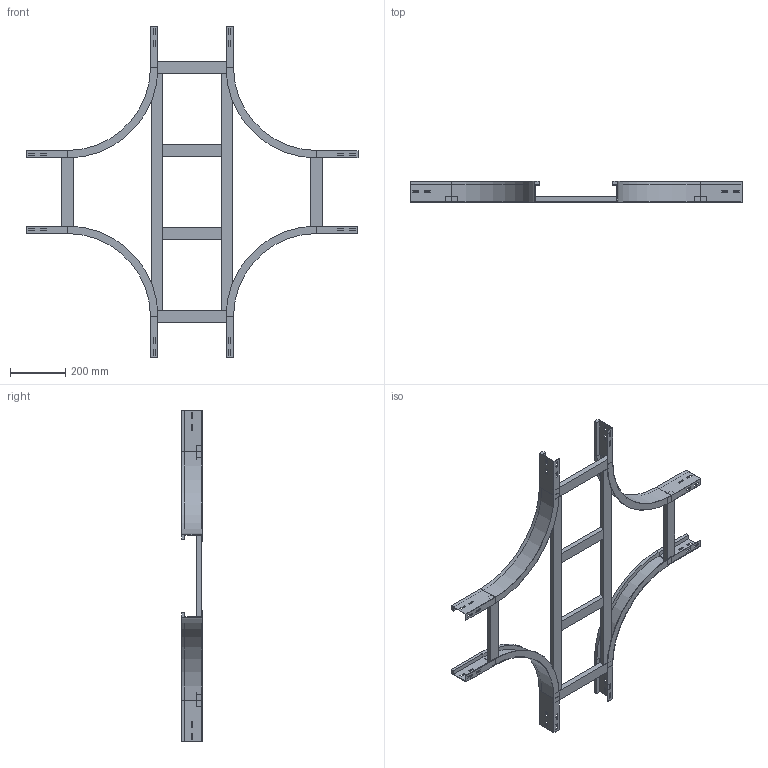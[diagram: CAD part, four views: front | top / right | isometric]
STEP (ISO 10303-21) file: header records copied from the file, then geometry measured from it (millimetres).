
FILE_DESCRIPTION (( 'STEP AP214' ), '1' );
FILE_NAME ('A2_17B3C300.step', '2025-02-21T15:58:30', ( '' ), ( '' ), 'SwSTEP 2.0', 'SolidWorks 2023', '' );
FILE_SCHEMA (( 'AUTOMOTIVE_DESIGN' ));
Length unit declared in the file: millimetre
Products named in the file (5): A2_TRAVERSINO_LONG._R300+300; TRAVERSINO_300; A2_LONGH.INTERNO 90°_H75_R300; TRAVERSINO_INTERMEDIO_R300+300; A2_17B3C300
Assembly tree (12 placements, depth 2):
  A2_17B3C300
    A2_LONGH.INTERNO 90°_H75_R300  x4
    TRAVERSINO_300  x4
    A2_TRAVERSINO_LONG._R300+300  x2
    TRAVERSINO_INTERMEDIO_R300+300  x2
Bounding box: 1200 x 75 x 1200 mm (x, y, z)
Volume: 3916738.1 mm3; surface area: 1150348.6 mm2
Topology: 12 solids, 12 shells, 280 faces, 704 edges, 448 vertices
Faces by surface type: plane 264, cylinder 16
Entity records: 2442 total; most frequent: CARTESIAN_POINT 399, DIRECTION 378, ORIENTED_EDGE 376, EDGE_CURVE 188, LINE 180, VECTOR 180, VERTEX_POINT 120, AXIS2_PLACEMENT_3D 99
